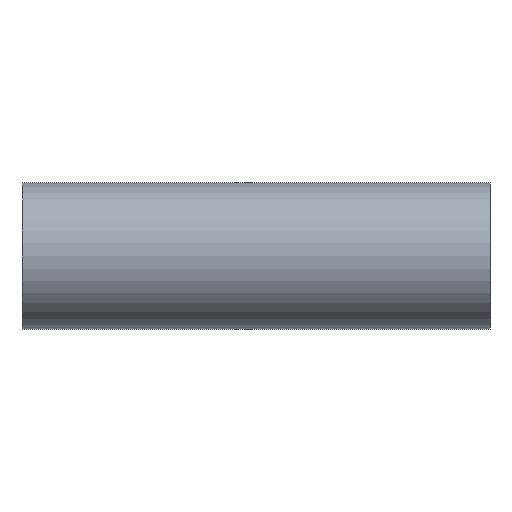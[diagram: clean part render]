
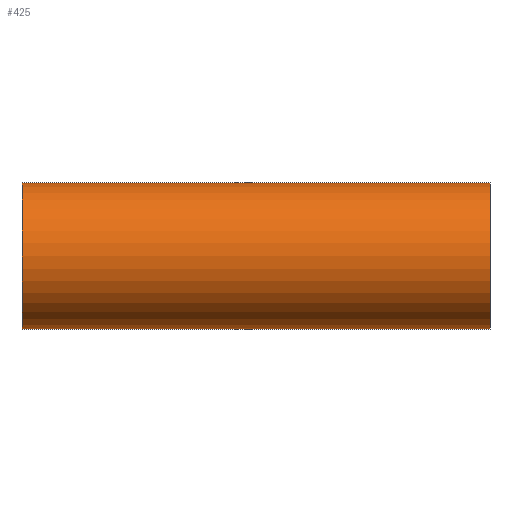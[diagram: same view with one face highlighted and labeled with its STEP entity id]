
A CAD part, front view. The second image highlights one B-rep face of the part: STEP entity #425.
In plain terms, the highlighted cylindrical face has radius 50.8 mm (diameter 101.6 mm), a partial arc.
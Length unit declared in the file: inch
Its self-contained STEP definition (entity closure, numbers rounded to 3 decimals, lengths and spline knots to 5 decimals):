
#15 = CARTESIAN_POINT ( 'NONE',  ( 10.75, 0., -2. ) ) ;
#40 = CARTESIAN_POINT ( 'NONE',  ( -2.062, 0., 2. ) ) ;
#58 = DIRECTION ( 'NONE',  ( 1., 0., 0. ) ) ;
#80 = ORIENTED_EDGE ( 'NONE', *, *, #83, .F. ) ;
#82 = AXIS2_PLACEMENT_3D ( 'NONE', #84, #266, #448 ) ;
#83 = EDGE_CURVE ( 'NONE', #511, #209, #172, .T. ) ;
#84 = CARTESIAN_POINT ( 'NONE',  ( 10.75, 0., 0. ) ) ;
#91 = FACE_OUTER_BOUND ( 'NONE', #187, .T. ) ;
#143 = DIRECTION ( 'NONE',  ( 1., 0., 0. ) ) ;
#148 = CARTESIAN_POINT ( 'NONE',  ( -2.062, 0., -2. ) ) ;
#151 = EDGE_CURVE ( 'NONE', #209, #233, #183, .T. ) ;
#172 = LINE ( 'NONE', #40, #440 ) ;
#183 = CIRCLE ( 'NONE', #82, 2. ) ;
#187 = EDGE_LOOP ( 'NONE', ( #80, #349, #205, #244 ) ) ;
#191 = DIRECTION ( 'NONE',  ( 1., 0., 0. ) ) ;
#201 = AXIS2_PLACEMENT_3D ( 'NONE', #366, #467, #332 ) ;
#205 = ORIENTED_EDGE ( 'NONE', *, *, #239, .T. ) ;
#209 = VERTEX_POINT ( 'NONE', #270 ) ;
#223 = CYLINDRICAL_SURFACE ( 'NONE', #201, 2. ) ;
#233 = VERTEX_POINT ( 'NONE', #15 ) ;
#239 = EDGE_CURVE ( 'NONE', #520, #233, #517, .T. ) ;
#244 = ORIENTED_EDGE ( 'NONE', *, *, #151, .F. ) ;
#266 = DIRECTION ( 'NONE',  ( 1., 0., 0. ) ) ;
#270 = CARTESIAN_POINT ( 'NONE',  ( 10.75, 0., 2. ) ) ;
#271 = DIRECTION ( 'NONE',  ( 0., 0., -1. ) ) ;
#281 = CARTESIAN_POINT ( 'NONE',  ( -2.062, 0., -2. ) ) ;
#332 = DIRECTION ( 'NONE',  ( 0., 0., -1. ) ) ;
#341 = AXIS2_PLACEMENT_3D ( 'NONE', #495, #143, #271 ) ;
#349 = ORIENTED_EDGE ( 'NONE', *, *, #466, .T. ) ;
#360 = CIRCLE ( 'NONE', #341, 2. ) ;
#366 = CARTESIAN_POINT ( 'NONE',  ( -2.062, 0., 0. ) ) ;
#392 = VECTOR ( 'NONE', #191, 39.37008 ) ;
#425 = ADVANCED_FACE ( 'NONE', ( #91 ), #223, .T. ) ;
#440 = VECTOR ( 'NONE', #58, 39.37008 ) ;
#448 = DIRECTION ( 'NONE',  ( 0., 0., -1. ) ) ;
#466 = EDGE_CURVE ( 'NONE', #511, #520, #360, .T. ) ;
#467 = DIRECTION ( 'NONE',  ( 1., 0., 0. ) ) ;
#495 = CARTESIAN_POINT ( 'NONE',  ( -2.062, 0., 0. ) ) ;
#511 = VERTEX_POINT ( 'NONE', #512 ) ;
#512 = CARTESIAN_POINT ( 'NONE',  ( -2.062, 0., 2. ) ) ;
#517 = LINE ( 'NONE', #148, #392 ) ;
#520 = VERTEX_POINT ( 'NONE', #281 ) ;
